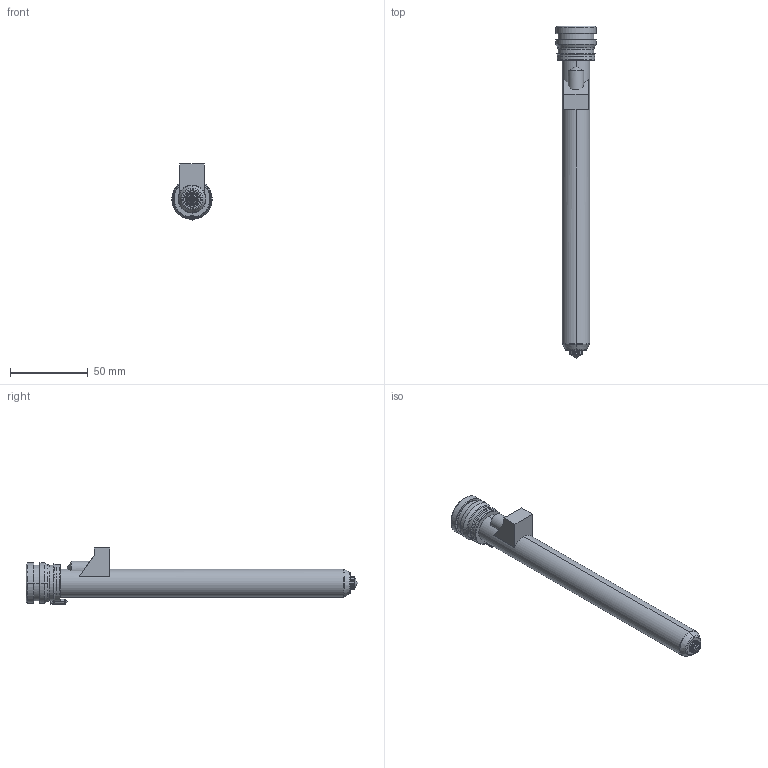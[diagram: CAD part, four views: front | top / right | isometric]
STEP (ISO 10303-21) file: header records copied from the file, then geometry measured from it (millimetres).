
FILE_DESCRIPTION((''),'2;1');
FILE_NAME('TH18196-M-1GLT-PK-JG','2023-12-14T',('umhib'),('Thermoplay S.p.A.'),'PRO/ENGINEER BY PARAMETRIC TECHNOLOGY CORPORATION, 2017170','PRO/ENGINEER BY PARAMETRIC TECHNOLOGY CORPORATION, 2017170','');
FILE_SCHEMA(('CONFIG_CONTROL_DESIGN'));
Length unit declared in the file: millimetre
Products named in the file (1): TH18196-M-1GLT-PK-JG
Bounding box: 26 x 214 x 36.1 mm (x, y, z)
Volume: 42312.9 mm3; surface area: 31951 mm2
Topology: 1 solids, 2 shells, 413 faces, 1052 edges, 647 vertices
Faces by surface type: cylinder 160, plane 92, cone 64, torus 64, bspline 22, sphere 9, extrusion 2
Entity records: 16925 total; most frequent: CARTESIAN_POINT 4927, DIRECTION 2166, ORIENTED_EDGE 2078, EDGE_CURVE 1041, AXIS2_PLACEMENT_3D 881, VERTEX_POINT 647, CIRCLE 491, EDGE_LOOP 441
